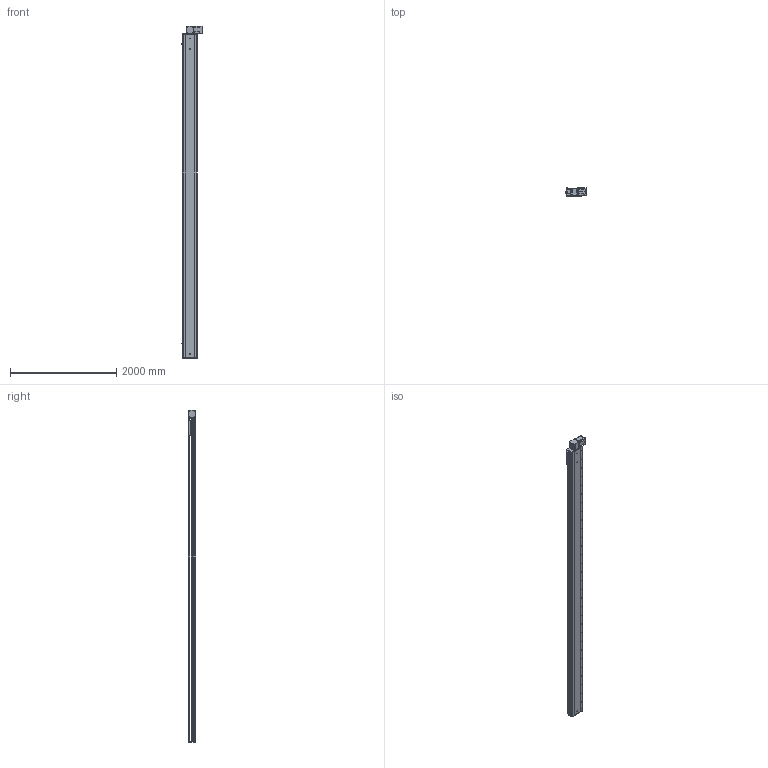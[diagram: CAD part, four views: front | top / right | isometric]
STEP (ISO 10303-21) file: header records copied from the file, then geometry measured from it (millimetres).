
FILE_DESCRIPTION (( 'STEP AP214' ), '1' );
FILE_NAME ('RTB28S-XX-5650-BL-M100-XX-C4.STEP', '2025-12-22T02:57:46', ( '' ), ( '' ), 'SwSTEP 2.0', 'SolidWorks 2018', '' );
FILE_SCHEMA (( 'AUTOMOTIVE_DESIGN' ));
Length unit declared in the file: millimetre
Products named in the file (4): RTB28S-GY-008^RTB28S-XX-XX-BL-M100-XX-C4; RTB28S-XX-5650-BL-M100-XX-C4; RTB28S-GY-004^RTB28S-XX-XX-BL-M100-XX-C4; RTB28S-GY-011^RTB28S-XX-XX-BL-M100-XX-C4
Assembly tree (3 placements, depth 2):
  RTB28S-XX-5650-BL-M100-XX-C4
    RTB28S-GY-011^RTB28S-XX-XX-BL-M100-XX-C4
    RTB28S-GY-004^RTB28S-XX-XX-BL-M100-XX-C4
    RTB28S-GY-008^RTB28S-XX-XX-BL-M100-XX-C4
Bounding box: 380.7 x 145 x 6257 mm (x, y, z)
Volume: 102845176.2 mm3; surface area: 9468980.4 mm2
Topology: 3 solids, 4 shells, 1018 faces, 2778 edges, 1788 vertices
Faces by surface type: cylinder 543, plane 391, cone 80, torus 4
Entity records: 40691 total; most frequent: CARTESIAN_POINT 8452, DIRECTION 5940, ORIENTED_EDGE 5492, EDGE_CURVE 2746, AXIS2_PLACEMENT_3D 2240, VERTEX_POINT 1788, LINE 1460, VECTOR 1460
